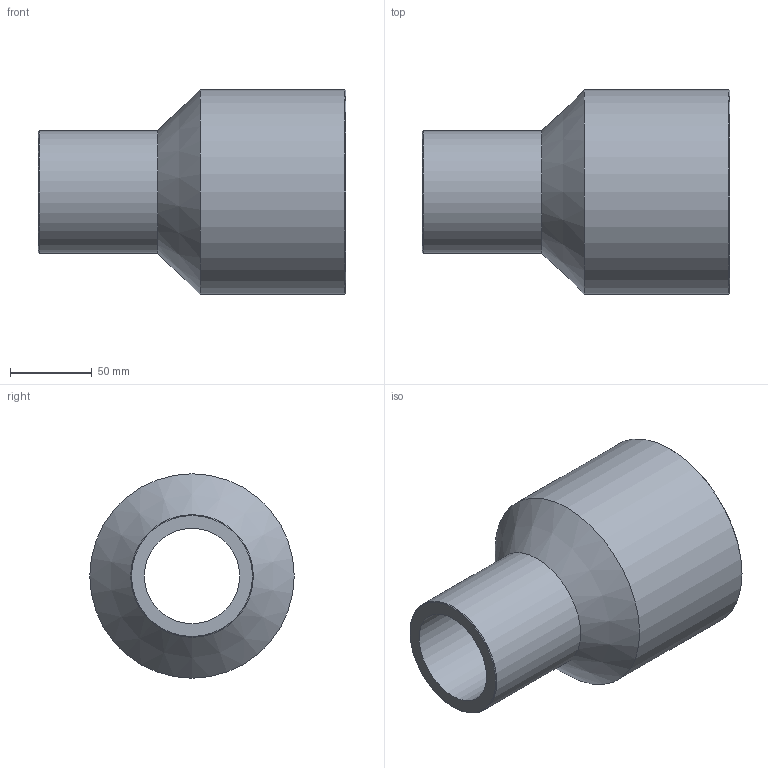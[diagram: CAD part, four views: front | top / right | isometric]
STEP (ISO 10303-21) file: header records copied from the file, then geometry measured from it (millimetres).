
FILE_DESCRIPTION(/* description */ ('Unknown'),/* implementation_level */ '2;1');
FILE_NAME(/* name */ 'RP125075G',/* time_stamp */ '2021-09-16T16:02:00+02:00',/* author */ ('Unknown'),/* organization */ ('Unknown'),/* preprocessor_version */ 'ST-DEVELOPER v16.7',/* originating_system */ 'Solid Edge',/* authorisation */ 'Unknown');
FILE_SCHEMA (('AUTOMOTIVE_DESIGN {1 0 10303 214 3 1 1}'));
Length unit declared in the file: millimetre
Products named in the file (1): RP125075G
Bounding box: 188 x 125 x 125 mm (x, y, z)
Volume: 667526.1 mm3; surface area: 117631.6 mm2
Topology: 1 solids, 1 shells, 10 faces, 19 edges, 11 vertices
Faces by surface type: cylinder 4, cone 4, plane 2
Full cylindrical faces by diameter (mm): 58.2 x1, 75 x1, 97 x1, 125 x1
Entity records: 238 total; most frequent: DIRECTION 42, CARTESIAN_POINT 31, AXIS2_PLACEMENT_3D 21, ORIENTED_EDGE 20, EDGE_LOOP 20, FACE_BOUND 20, EDGE_CURVE 10, VERTEX_POINT 10
